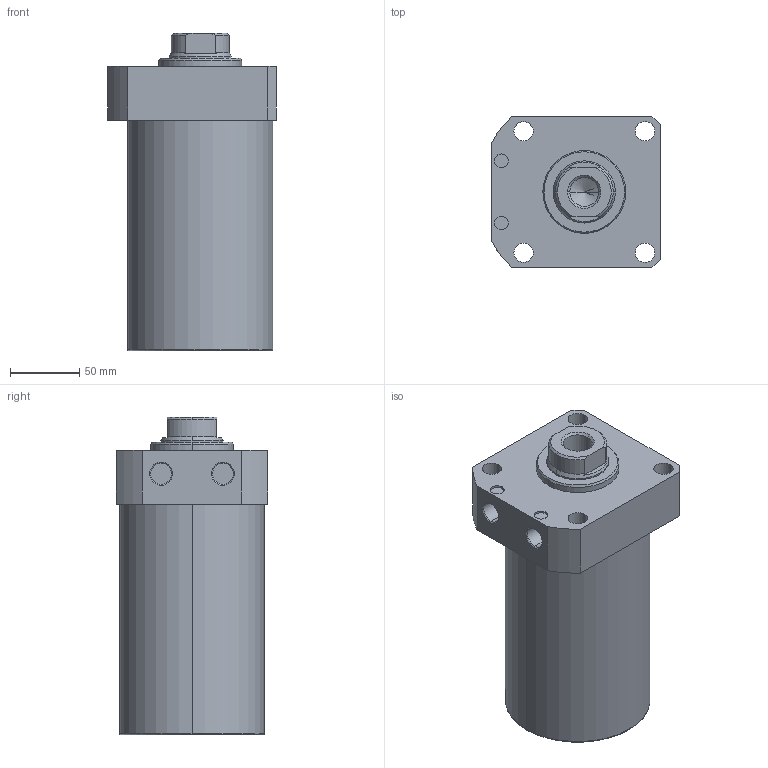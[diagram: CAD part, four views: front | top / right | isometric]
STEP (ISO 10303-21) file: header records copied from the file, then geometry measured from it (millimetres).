
FILE_DESCRIPTION (( 'STEP AP203' ), '1' );
FILE_NAME ('CLLR-105CA-120.STEP', '2019-12-18T07:12:31', ( '' ), ( '' ), 'SwSTEP 2.0', 'SolidWorks 2015', '' );
FILE_SCHEMA (( 'CONFIG_CONTROL_DESIGN' ));
Length unit declared in the file: millimetre
Products named in the file (1): CLLR-105CA-120
Bounding box: 122 x 110 x 230 mm (x, y, z)
Volume: 1943213.9 mm3; surface area: 113673.1 mm2
Topology: 1 solids, 1 shells, 65 faces, 153 edges, 96 vertices
Faces by surface type: cylinder 29, plane 19, cone 15, torus 2
Entity records: 1971 total; most frequent: DIRECTION 352, CARTESIAN_POINT 337, ORIENTED_EDGE 302, EDGE_CURVE 151, AXIS2_PLACEMENT_3D 143, VERTEX_POINT 96, EDGE_LOOP 81, CIRCLE 77
